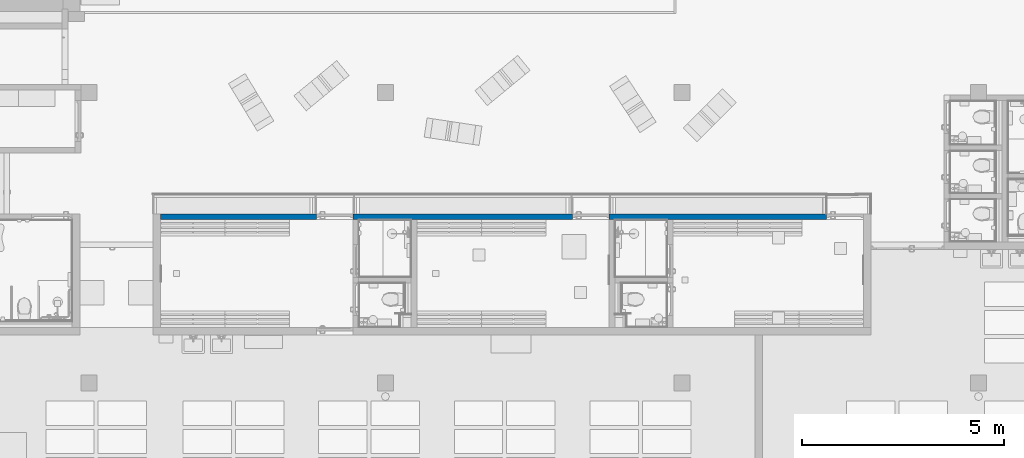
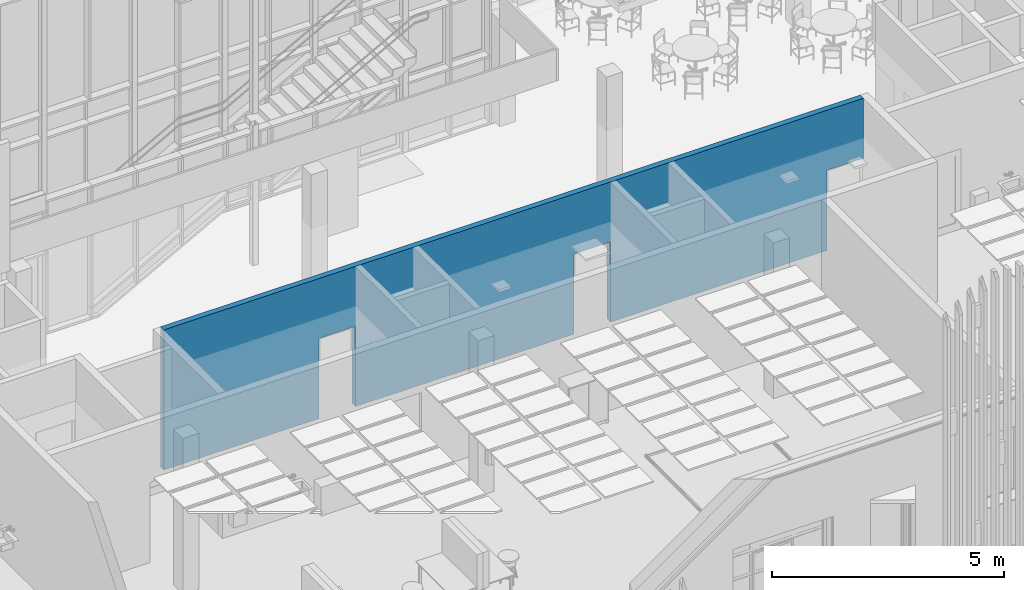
# One storey, part 96 of 301: 1 wall, 3 openings.
"""IFC2X3 building model written with IfcOpenShell, lengths in millimetres."""

from ifc_helpers import new_model, entity, si_unit, converted_unit, derived_unit, money_unit, direction, frame, origin_with_axes, place, context, subcontext, project, spatial, faceted_brep, material, type_object, element, save


model = new_model("IFC2X3")

# Units and contexts
model_context = context("Model", 3, precision=0.01, world=origin_with_axes(), true_north=direction((0.0, 1.0)))
body_context = subcontext(model_context, "Body", "Model", "MODEL_VIEW")
ifc_project = project(units=[si_unit("LENGTHUNIT", "METRE", prefix="MILLI"), si_unit("AREAUNIT", "SQUARE_METRE"), si_unit("VOLUMEUNIT", "CUBIC_METRE"), converted_unit("PLANEANGLEUNIT", "DEGREE", entity("IfcPlaneAngleMeasure", 0.0174532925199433), si_unit("PLANEANGLEUNIT", "RADIAN"), dimensions=[0, 0, 0, 0, 0, 0, 0]), money_unit("EUR"), converted_unit("TIMEUNIT", "Year", entity("IfcTimeMeasure", 31557600.0), si_unit("TIMEUNIT", "SECOND"), dimensions=[0, 0, 1, 0, 0, 0, 0]), si_unit("MASSUNIT", "GRAM", prefix="KILO"), si_unit("THERMODYNAMICTEMPERATUREUNIT", "DEGREE_CELSIUS"), si_unit("LUMINOUSINTENSITYUNIT", "LUMEN"), si_unit("ENERGYUNIT", "JOULE", prefix="MEGA"), derived_unit("THERMALCONDUCTANCEUNIT", [(si_unit("POWERUNIT", "WATT"), 1), (si_unit("LENGTHUNIT", "METRE"), -1), (si_unit("THERMODYNAMICTEMPERATUREUNIT", "KELVIN"), -1)]), derived_unit("SPECIFICHEATCAPACITYUNIT", [(si_unit("ENERGYUNIT", "JOULE"), 1), (si_unit("MASSUNIT", "GRAM", prefix="KILO"), -1), (si_unit("THERMODYNAMICTEMPERATUREUNIT", "KELVIN"), -1)]), derived_unit("MASSDENSITYUNIT", [(si_unit("MASSUNIT", "GRAM", prefix="KILO"), 1), (si_unit("VOLUMEUNIT", "CUBIC_METRE"), -1)])], contexts=[model_context])

# Site, building, storey
site_placement = place(None, frame((0.0, 0.0, 8650.0), z_axis=(0.0, 0.0, 1.0), x_axis=(1.0, 0.0, 0.0)))
site = spatial("IfcSite", under=ifc_project, at=site_placement, Name="43301:001:0844", CompositionType="ELEMENT")
building_placement = place(site_placement, origin_with_axes())
building = spatial("IfcBuilding", under=site, at=building_placement, Name="Kuressaare Ametikooli tuulikute mehaanikute õppekorpus", CompositionType="ELEMENT")
storey_placement = place(building_placement, origin_with_axes())
storey = spatial("IfcBuildingStorey", under=building, at=storey_placement, Name="1.korrus", CompositionType="ELEMENT", Elevation=0.0)

# Wall, openings
ifc_material = material(Name="Betoonõõnesplokk")
wall_type = type_object("IfcWallType", Name="SS-1.2 140", PredefinedType="NOTDEFINED")
wall_placement = place(storey_placement, frame((123065.2609256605, 20624.83810520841, 0.0), z_axis=(0.0, 0.0, 1.0), x_axis=(-0.9999999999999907, -1.369512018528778e-07, 0.0)))
wall = element("IfcWall", 1, at=wall_placement, inside=storey, type_object=wall_type, material=ifc_material, Name="Sisesein", context=body_context, shape_type="Brep", body=[
    faceted_brep([(13559.74896753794, -139.9999999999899, 2110.0), (13559.74896753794, -139.9999999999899, 0.0), (17419.74895878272, -139.9999999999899, 0.0), (17419.74895878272, -139.9999999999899, 3690.0), (-1.917317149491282e-05, -139.9999999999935, 3690.0), (0.0, -139.9999999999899, 2110.0), (909.9999999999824, -139.9999999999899, 2110.0), (909.9999999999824, -139.9999999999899, 0.0), (6300.000810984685, -139.9999999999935, 0.0), (6300.000810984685, -139.9999999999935, 2110.0), (7210.000810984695, -139.9999999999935, 2110.0), (7210.000810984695, -139.9999999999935, 0.0), (12649.74896753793, -139.9999999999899, 0.0), (12649.74896753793, -139.9999999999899, 2110.0), (13559.74896753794, 0.0, 2110.0), (13559.74896753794, 0.0, 0.0), (17419.74896038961, 0.0, 0.0), (17419.74896038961, 0.0, 3690.0), (0.0, 0.0, 3690.0), (0.0, 0.0, 2110.0), (909.9999999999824, 0.0, 2110.0), (909.9999999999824, 0.0, 0.0), (6300.000810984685, 0.0, 0.0), (6300.000810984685, 0.0, 2110.0), (7210.000810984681, 0.0, 2110.0), (7210.000810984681, 0.0, 0.0), (12649.74896753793, 0.0, 0.0), (12649.74896753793, 0.0, 2110.0)], [[[0, 1, 2, 3, 4, 5, 6, 7, 8, 9, 10, 11, 12, 13]], [[1, 0, 14, 15]], [[1, 15, 16, 2]], [[2, 16, 17, 3]], [[3, 17, 18, 4]], [[4, 18, 19, 5]], [[19, 20, 6, 5]], [[20, 21, 7, 6]], [[8, 7, 21, 22]], [[8, 22, 23, 9]], [[9, 23, 24, 10]], [[10, 24, 25, 11]], [[26, 12, 11, 25]], [[13, 12, 26, 27]], [[0, 13, 27, 14]], [[27, 26, 25, 24, 23, 22, 21, 20, 19, 18, 17, 16, 15, 14]]]),
])
opening_1_placement = place(wall_placement, frame((454.9999999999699, 0.0, 0.0), z_axis=(0.0, 0.0, 1.0), x_axis=(1.0, 0.0, 0.0)))
element("IfcOpeningElement", 2, at=opening_1_placement, cuts=wall, Name="PU9,dB", context=body_context, shape_type="Brep", body=[
    faceted_brep([(455.0000000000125, 1.002411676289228, 2110.0), (455.0000000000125, 1.002411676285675, 0.0), (-454.9999999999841, 1.002411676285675, 0.0), (-454.9999999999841, 1.002411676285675, 2110.0), (455.0000000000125, -141.0024116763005, 2110.0), (455.0000000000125, -141.002411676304, 0.0), (-454.9999999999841, -141.002411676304, 0.0), (-454.9999999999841, -141.002411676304, 2110.0)], [[[0, 1, 2, 3]], [[4, 5, 1, 0]], [[5, 6, 2, 1]], [[6, 7, 3, 2]], [[7, 4, 0, 3]], [[6, 5, 4, 7]]]),
])
opening_2_placement = place(wall_placement, frame((6755.000810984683, 0.0, 0.0), z_axis=(0.0, 0.0, 1.0), x_axis=(1.0, 0.0, 0.0)))
element("IfcOpeningElement", 3, at=opening_2_placement, cuts=wall, Name="PU9,dB", context=body_context, shape_type="Brep", body=[
    faceted_brep([(455.0000000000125, 1.002411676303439, 2110.0), (455.0000000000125, 1.002411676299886, 0.0), (-454.9999999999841, 1.002411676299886, 0.0), (-454.9999999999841, 1.002411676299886, 2110.0), (454.9999999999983, -141.0024116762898, 2110.0), (454.9999999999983, -141.0024116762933, 0.0), (-454.9999999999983, -141.0024116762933, 0.0), (-454.9999999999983, -141.0024116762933, 2110.0)], [[[0, 1, 2, 3]], [[4, 5, 1, 0]], [[5, 6, 2, 1]], [[6, 7, 3, 2]], [[7, 4, 0, 3]], [[6, 5, 4, 7]]]),
])
opening_3_placement = place(wall_placement, frame((13104.74896753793, 0.0, 0.0), z_axis=(0.0, 0.0, 1.0), x_axis=(1.0, 0.0, 0.0)))
element("IfcOpeningElement", 4, at=opening_3_placement, cuts=wall, Name="PU9,dB", context=body_context, shape_type="Brep", body=[
    faceted_brep([(455.0000000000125, 1.002411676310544, 2110.0), (455.0000000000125, 1.002411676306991, 0.0), (-454.9999999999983, 1.002411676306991, 0.0), (-454.9999999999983, 1.002411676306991, 2110.0), (455.0000000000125, -141.0024116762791, 2110.0), (455.0000000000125, -141.0024116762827, 0.0), (-455.0000000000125, -141.0024116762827, 0.0), (-455.0000000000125, -141.0024116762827, 2110.0)], [[[0, 1, 2, 3]], [[4, 5, 1, 0]], [[5, 6, 2, 1]], [[6, 7, 3, 2]], [[7, 4, 0, 3]], [[6, 5, 4, 7]]]),
])

save(model, "model.ifc")
